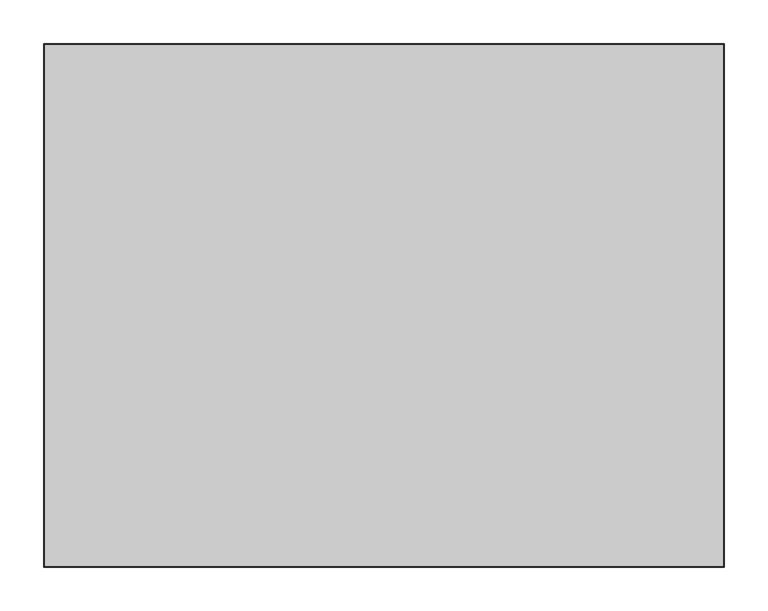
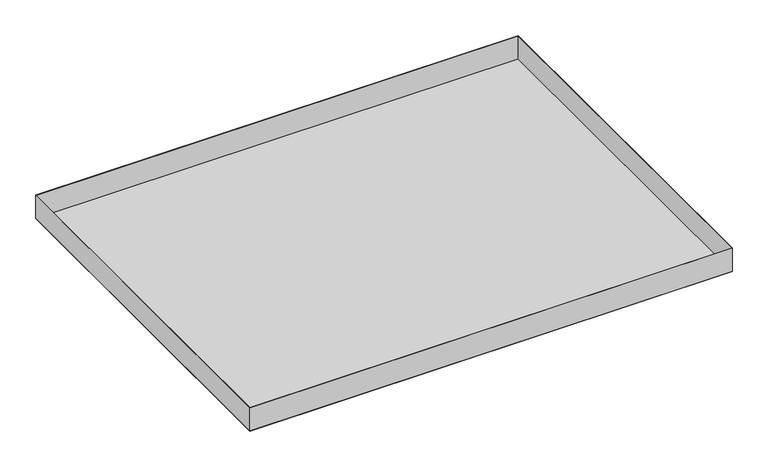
"""IFC4 building model written with IfcOpenShell, lengths in millimetres: proxy geometry, durlum_S-OM-40-RHOMBOS : durlum_S-OM-40-RHOMBOS_panel_wall_length_cut."""

import ifcopenshell
import ifcopenshell.guid

model = None  # the IFC model being written
_history = None  # IfcOwnerHistory: only IFC2X3 demands one
_inside = {}  # id of a spatial element -> (the spatial element, [elements in it])
_under = {}  # id of a project, library or spatial element -> (it, [spatial elements below it])
_declared = {}  # id of a project -> (the project, [libraries it declares])
_typed = {}  # id of a type object -> (the type object, [elements of that type])
_made_of = {}  # id of a material, layer set ... -> (it, [elements and type objects made of it])


def new_model(schema):
    """Start an empty IFC model of exactly this schema.

    Asked for "IFC4X3", IfcOpenShell would pick the latest addendum, in which some entities
    have other attributes; the version numbers below select the first issue.
    IFC2X3 requires an IfcOwnerHistory on every rooted entity: one is made here for all.
    """
    global model, _history
    if schema == "IFC4X3":
        model = ifcopenshell.file(schema_version=(4, 3, 0, 0))
    else:
        model = ifcopenshell.file(schema=schema)
    _inside.clear()
    _under.clear()
    _declared.clear()
    _typed.clear()
    _made_of.clear()
    _history = None
    if model.schema == "IFC2X3":
        org = make("IfcOrganization", Name="unknown")
        user = make(
            "IfcPersonAndOrganization",
            ThePerson=make("IfcPerson", FamilyName="unknown"),
            TheOrganization=org,
        )
        app = make(
            "IfcApplication",
            ApplicationDeveloper=org,
            Version="unknown",
            ApplicationFullName="unknown",
            ApplicationIdentifier="unknown",
        )
        _history = make(
            "IfcOwnerHistory",
            OwningUser=user,
            OwningApplication=app,
            ChangeAction="ADDED",
            CreationDate=0,
        )
    return model


def make(cls, **values):
    """One entity of the class cls with the attributes given. An attribute that is None is left unset."""
    return model.create_entity(
        cls, **{name: value for name, value in values.items() if value is not None}
    )


def rooted(cls, **values):
    """An entity with a GlobalId (a new one), such as an element, a storey or a relation."""
    return make(cls, GlobalId=ifcopenshell.guid.new(), OwnerHistory=_history, **values)


def si_unit(unit_type, name, prefix=None):
    """IfcSIUnit, for example si_unit("LENGTHUNIT", "METRE", prefix="MILLI")."""
    return make("IfcSIUnit", UnitType=unit_type, Prefix=prefix, Name=name)


def assignment(units):
    """IfcUnitAssignment: the units of a project."""
    return None if units is None else make("IfcUnitAssignment", Units=units)


def point(xyz):
    """IfcCartesianPoint."""
    return None if xyz is None else make("IfcCartesianPoint", Coordinates=xyz)


def direction(xyz):
    """IfcDirection."""
    return None if xyz is None else make("IfcDirection", DirectionRatios=xyz)


def frame(location, z_axis=None, x_axis=None):
    """IfcAxis2Placement3D, a coordinate frame: its origin and axes. An axis left out is left unset."""
    return make(
        "IfcAxis2Placement3D",
        Location=point(location),
        Axis=direction(z_axis),
        RefDirection=direction(x_axis),
    )


def origin():
    """The frame at (0, 0, 0) with its axes left unset."""
    return frame((0.0, 0.0, 0.0))


def origin_with_axes():
    """The frame at (0, 0, 0) with the z axis (0, 0, 1) and the x axis (1, 0, 0) written out."""
    return frame((0.0, 0.0, 0.0), z_axis=(0.0, 0.0, 1.0), x_axis=(1.0, 0.0, 0.0))


def place(relative_to, where):
    """IfcLocalPlacement: puts the frame where relative to a parent placement (None: the world)."""
    return make(
        "IfcLocalPlacement", PlacementRelTo=relative_to, RelativePlacement=where
    )


def context(
    kind, dimensions, precision=None, world=None, true_north=None, identifier=None
):
    """IfcGeometricRepresentationContext, for example the 3D "Model" context."""
    return make(
        "IfcGeometricRepresentationContext",
        ContextIdentifier=identifier,
        ContextType=kind,
        CoordinateSpaceDimension=dimensions,
        Precision=precision,
        WorldCoordinateSystem=world,
        TrueNorth=true_north,
    )


def project(units=None, contexts=None):
    """IfcProject with its units and contexts."""
    return rooted(
        "IfcProject",
        Name="project",
        RepresentationContexts=contexts,
        UnitsInContext=assignment(units),
    )


def spatial(cls, under=None, at=None, **own):
    """A site, building, storey or space (cls), placed at a placement, below another one or the project."""
    s = rooted(cls, ObjectPlacement=at, **own)
    if under is not None:
        _under.setdefault(under.id(), (under, []))[1].append(s)
    return s


def polyline(points):
    """IfcPolyline through the points."""
    return make("IfcPolyline", Points=[point(p) for p in points])


def outline(outer, holes=None, kind="AREA"):
    """IfcArbitraryClosedProfileDef: a profile drawn as a closed curve; with holes, ...WithVoids."""
    if holes is None:
        return make("IfcArbitraryClosedProfileDef", ProfileType=kind, OuterCurve=outer)
    return make(
        "IfcArbitraryProfileDefWithVoids",
        ProfileType=kind,
        OuterCurve=outer,
        InnerCurves=holes,
    )


def extrude(swept, where, along, depth):
    """IfcExtrudedAreaSolid: the profile swept, set in the frame where, extruded along a direction by depth."""
    return make(
        "IfcExtrudedAreaSolid",
        SweptArea=swept,
        Position=where,
        ExtrudedDirection=direction(along),
        Depth=depth,
    )


def shape(context_of_items, identifier, shape_type, items):
    """IfcShapeRepresentation: the items that make up one representation, for example the "Body"."""
    return make(
        "IfcShapeRepresentation",
        ContextOfItems=context_of_items,
        RepresentationIdentifier=identifier,
        RepresentationType=shape_type,
        Items=items,
    )


def source(mapping_origin, context_of_items, identifier, shape_type, items):
    """IfcRepresentationMap: a shape defined once, which mapped items show again and again."""
    return make(
        "IfcRepresentationMap",
        MappingOrigin=mapping_origin,
        MappedRepresentation=shape(context_of_items, identifier, shape_type, items),
    )


def transform(
    local_origin,
    x_axis=None,
    y_axis=None,
    z_axis=None,
    scale=None,
    scale2=None,
    scale3=None,
    uniform=True,
):
    """IfcCartesianTransformationOperator3D, or its non-uniform kind. x_axis, y_axis, z_axis: its Axis1, 2, 3."""
    if uniform:
        return make(
            "IfcCartesianTransformationOperator3D",
            Axis1=direction(x_axis),
            Axis2=direction(y_axis),
            LocalOrigin=point(local_origin),
            Scale=scale,
            Axis3=direction(z_axis),
        )
    return make(
        "IfcCartesianTransformationOperator3DnonUniform",
        Axis1=direction(x_axis),
        Axis2=direction(y_axis),
        LocalOrigin=point(local_origin),
        Scale=scale,
        Axis3=direction(z_axis),
        Scale2=scale2,
        Scale3=scale3,
    )


def mapped(mapping_source, mapping_target):
    """IfcMappedItem: shows the shape of a source again, moved by a transform."""
    return make(
        "IfcMappedItem", MappingSource=mapping_source, MappingTarget=mapping_target
    )


def made_of(thing, what):
    """Note that an element or type object is made of a material, layer set ...; save() writes the relation."""
    if what is not None:
        _made_of.setdefault(what.id(), (what, []))[1].append(thing)
    return thing


def element(
    cls,
    number,
    at=None,
    inside=None,
    cuts=None,
    type_object=None,
    material=None,
    context=None,
    identifier="Body",
    shape_type=None,
    held_by="IfcProductDefinitionShape",
    body=None,
    shapes=None,
    **own,
):
    """One element of the class cls, such as IfcWall. Its Tag is "e" and its number.

    at: its placement. inside: the storey or other place that contains it. cuts: it is an
    opening in that element (IfcRelVoidsElement). A single representation is given by context,
    identifier, shape_type and body (its items); several are given by shapes. held_by: the class
    of the entity that holds the representations. save() writes the other relations.
    """
    e = rooted(cls, Tag="e%d" % number, ObjectPlacement=at, **own)
    if body is not None:
        shapes = [shape(context, identifier, shape_type, body)]
    if shapes is not None:
        e.Representation = make(held_by, Representations=shapes)
    if inside is not None:
        _inside.setdefault(inside.id(), (inside, []))[1].append(e)
    if cuts is not None:
        rooted(
            "IfcRelVoidsElement", RelatingBuildingElement=cuts, RelatedOpeningElement=e
        )
    if type_object is not None:
        _typed.setdefault(type_object.id(), (type_object, []))[1].append(e)
    return made_of(e, material)


def aggregate(whole, parts):
    """IfcRelAggregates: a whole, such as a stair, and the parts it consists of."""
    return rooted("IfcRelAggregates", RelatingObject=whole, RelatedObjects=parts)


def save(model, path):
    """Write the relations noted so far, then the file.

    IfcRelAggregates (storeys below a building ...), IfcRelContainedInSpatialStructure (elements
    in a storey), IfcRelDefinesByType, IfcRelAssociatesMaterial and IfcRelDeclares: one each for
    every whole, place, type object, material and project.
    """
    for whole, parts in _under.values():
        aggregate(whole, parts)
    for where, things in _inside.values():
        rooted(
            "IfcRelContainedInSpatialStructure",
            RelatedElements=things,
            RelatingStructure=where,
        )
    for kind, things in _typed.values():
        rooted("IfcRelDefinesByType", RelatedObjects=things, RelatingType=kind)
    for what, things in _made_of.values():
        rooted("IfcRelAssociatesMaterial", RelatedObjects=things, RelatingMaterial=what)
    for by, libraries in _declared.values():
        rooted("IfcRelDeclares", RelatingContext=by, RelatedDefinitions=libraries)
    model.write(path)


def generic_models_2596e338(model_context):
    return source(origin(), model_context, "Body", "SweptSolid", [
        extrude(outline(polyline([(389.5, 299.5), (389.5, -299.5), (-389.5, -299.5), (-389.5, 299.5), (389.5, 299.5)]), holes=[polyline([(388.9, 298.9), (-388.9, 298.9), (-388.9, -298.9), (388.9, -298.9), (388.9, 298.9)])]), frame((0.0, 0.0, 0.6), z_axis=(0.0, 0.0, 1.0), x_axis=(1.0, 0.0, 0.0)), (0.0, 0.0, 1.0), 39.4),
        extrude(outline(polyline([(388.5, 298.5), (388.5, -298.5), (-388.5, -298.5), (-388.5, 298.5), (388.5, 298.5)])), frame((0.0, 0.0, 0.6), z_axis=(0.0, 0.0, 1.0), x_axis=(1.0, 0.0, 0.0)), (0.0, 0.0, 1.0), 0.6),
        extrude(outline(polyline([(389.5, 299.5), (389.5, -299.5), (-389.5, -299.5), (-389.5, 299.5), (389.5, 299.5)]), holes=[polyline([(388.5, 298.5), (-388.5, 298.5), (-388.5, -298.5), (388.5, -298.5), (388.5, 298.5)])]), origin_with_axes(), (0.0, 0.0, 1.0), 0.6),
        extrude(outline(polyline([(388.5, 298.5), (388.5, -298.5), (-388.5, -298.5), (-388.5, 298.5), (388.5, 298.5)])), origin_with_axes(), (0.0, 0.0, 1.0), 0.6),
    ])


if __name__ == "__main__":
    model = new_model("IFC4")
    model_context = context("Model", 3, world=origin())
    ifc_project = project(units=[si_unit("LENGTHUNIT", "METRE", prefix="MILLI")], contexts=[model_context])
    site = spatial("IfcSite", under=ifc_project)
    building = spatial("IfcBuilding", under=site)
    placement = place(None, origin())
    generic_models_shape = generic_models_2596e338(model_context)
    element("IfcBuildingElementProxy", 1, Name="durlum_S-OM-40-RHOMBOS : durlum_S-OM-40-RHOMBOS_panel_wall_length_cut", ObjectType="durlum_S-OM-40-RHOMBOS : durlum_S-OM-40-RHOMBOS_panel_wall_length_cut", at=placement, inside=building, context=model_context, shape_type="MappedRepresentation", body=[
        mapped(generic_models_shape, transform((0.0, 0.0, 0.0), x_axis=(1.0, 0.0, 0.0), y_axis=(0.0, 1.0, 0.0), z_axis=(0.0, 0.0, 1.0))),
    ])
    save(model, "model.ifc")
